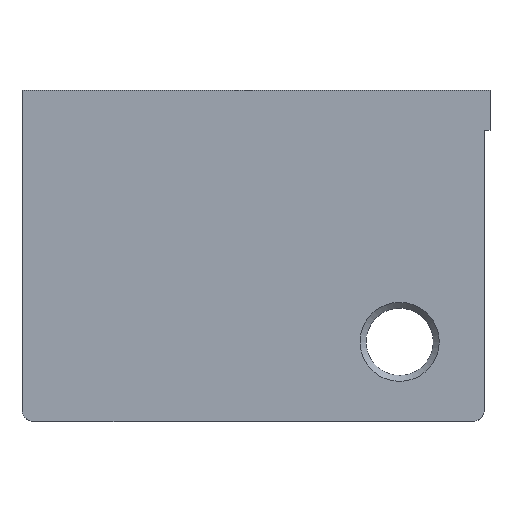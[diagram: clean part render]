
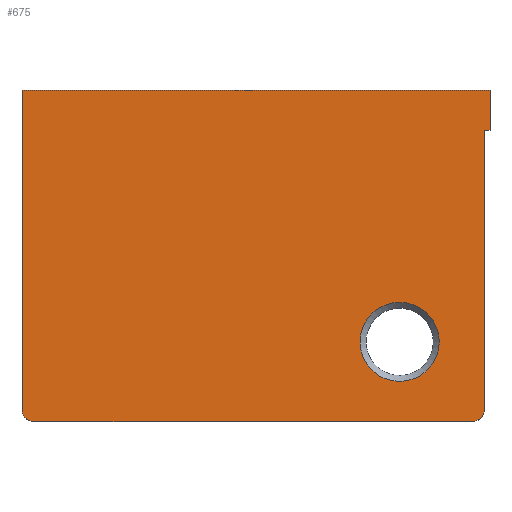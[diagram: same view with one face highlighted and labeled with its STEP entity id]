
A CAD part, top view. The second image highlights one B-rep face of the part: STEP entity #675.
In plain terms, the highlighted planar face has unit normal (0, 0, 1).
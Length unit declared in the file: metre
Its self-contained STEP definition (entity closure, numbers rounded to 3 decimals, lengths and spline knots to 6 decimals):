
#18=CIRCLE('',#729,0.003);
#19=CIRCLE('',#730,0.003);
#20=CIRCLE('',#731,0.01);
#80=ORIENTED_EDGE('',*,*,#261,.F.);
#81=ORIENTED_EDGE('',*,*,#262,.T.);
#82=ORIENTED_EDGE('',*,*,#255,.F.);
#83=ORIENTED_EDGE('',*,*,#263,.T.);
#84=ORIENTED_EDGE('',*,*,#264,.T.);
#85=ORIENTED_EDGE('',*,*,#265,.T.);
#86=ORIENTED_EDGE('',*,*,#266,.F.);
#87=ORIENTED_EDGE('',*,*,#247,.T.);
#88=ORIENTED_EDGE('',*,*,#267,.T.);
#247=EDGE_CURVE('',#337,#336,#403,.T.);
#255=EDGE_CURVE('',#343,#344,#411,.T.);
#261=EDGE_CURVE('',#347,#336,#417,.T.);
#262=EDGE_CURVE('',#347,#344,#18,.T.);
#263=EDGE_CURVE('',#343,#348,#19,.T.);
#264=EDGE_CURVE('',#348,#349,#418,.T.);
#265=EDGE_CURVE('',#349,#350,#419,.T.);
#266=EDGE_CURVE('',#337,#350,#420,.T.);
#267=EDGE_CURVE('',#351,#351,#20,.F.);
#336=VERTEX_POINT('',#1010);
#337=VERTEX_POINT('',#1012);
#343=VERTEX_POINT('',#1027);
#344=VERTEX_POINT('',#1028);
#347=VERTEX_POINT('',#1039);
#348=VERTEX_POINT('',#1042);
#349=VERTEX_POINT('',#1044);
#350=VERTEX_POINT('',#1046);
#351=VERTEX_POINT('',#1049);
#403=LINE('',#1011,#490);
#411=LINE('',#1026,#498);
#417=LINE('',#1038,#504);
#418=LINE('',#1043,#505);
#419=LINE('',#1045,#506);
#420=LINE('',#1047,#507);
#490=VECTOR('',#814,1.);
#498=VECTOR('',#824,1.);
#504=VECTOR('',#834,1.);
#505=VECTOR('',#839,1.);
#506=VECTOR('',#840,1.);
#507=VECTOR('',#841,1.);
#559=EDGE_LOOP('',(#80,#81,#82,#83,#84,#85,#86,#87));
#560=EDGE_LOOP('',(#88));
#602=FACE_BOUND('',#559,.T.);
#603=FACE_BOUND('',#560,.T.);
#641=PLANE('',#728);
#675=ADVANCED_FACE('',(#602,#603),#641,.T.);
#728=AXIS2_PLACEMENT_3D('',#1037,#832,#833);
#729=AXIS2_PLACEMENT_3D('',#1040,#835,#836);
#730=AXIS2_PLACEMENT_3D('',#1041,#837,#838);
#731=AXIS2_PLACEMENT_3D('',#1048,#842,#843);
#814=DIRECTION('',(-1.,0.,0.));
#824=DIRECTION('',(-1.,0.,0.));
#832=DIRECTION('',(0.,0.,1.));
#833=DIRECTION('',(1.,0.,0.));
#834=DIRECTION('',(0.,1.,0.));
#835=DIRECTION('',(0.,0.,1.));
#836=DIRECTION('',(1.,0.,0.));
#837=DIRECTION('',(0.,0.,1.));
#838=DIRECTION('',(1.,0.,0.));
#839=DIRECTION('',(0.,1.,0.));
#840=DIRECTION('',(1.,0.,0.));
#841=DIRECTION('',(0.,-1.,0.));
#842=DIRECTION('',(0.,0.,1.));
#843=DIRECTION('',(1.,0.,0.));
#1010=CARTESIAN_POINT('',(-0.05845,-0.0038,0.03315));
#1011=CARTESIAN_POINT('',(0.,-0.0038,0.03315));
#1012=CARTESIAN_POINT('',(0.05985,-0.0038,0.03315));
#1026=CARTESIAN_POINT('',(0.,-0.08748,0.03315));
#1027=CARTESIAN_POINT('',(0.05545,-0.08748,0.03315));
#1028=CARTESIAN_POINT('',(-0.05545,-0.08748,0.03315));
#1037=CARTESIAN_POINT('',(0.,-0.04564,0.03315));
#1038=CARTESIAN_POINT('',(-0.05845,-0.04564,0.03315));
#1039=CARTESIAN_POINT('',(-0.05845,-0.08448,0.03315));
#1040=CARTESIAN_POINT('',(-0.05545,-0.08448,0.03315));
#1041=CARTESIAN_POINT('',(0.05545,-0.08448,0.03315));
#1042=CARTESIAN_POINT('',(0.05845,-0.08448,0.03315));
#1043=CARTESIAN_POINT('',(0.05845,-0.04564,0.03315));
#1044=CARTESIAN_POINT('',(0.05845,-0.0138,0.03315));
#1045=CARTESIAN_POINT('',(0.05835,-0.0138,0.03315));
#1046=CARTESIAN_POINT('',(0.05985,-0.0138,0.03315));
#1047=CARTESIAN_POINT('',(0.05985,-0.0088,0.03315));
#1048=CARTESIAN_POINT('',(0.03701,-0.067334,0.03315));
#1049=CARTESIAN_POINT('',(0.04701,-0.067334,0.03315));
